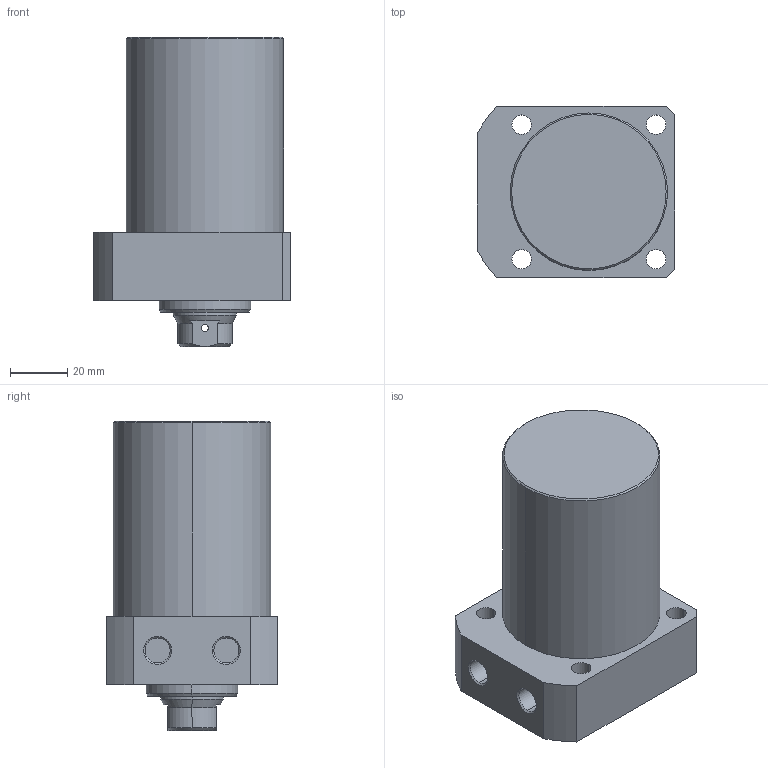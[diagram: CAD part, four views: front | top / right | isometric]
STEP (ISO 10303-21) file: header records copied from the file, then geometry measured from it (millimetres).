
FILE_DESCRIPTION (( 'STEP AP203' ), '1' );
FILE_NAME ('CLLR-055CB-055.STEP', '2019-12-19T07:50:54', ( '' ), ( '' ), 'SwSTEP 2.0', 'SolidWorks 2015', '' );
FILE_SCHEMA (( 'CONFIG_CONTROL_DESIGN' ));
Length unit declared in the file: millimetre
Products named in the file (1): CLLR-055CB-055
Bounding box: 69 x 60 x 108 mm (x, y, z)
Volume: 259153.5 mm3; surface area: 29976.1 mm2
Topology: 1 solids, 1 shells, 69 faces, 163 edges, 102 vertices
Faces by surface type: cylinder 33, plane 19, cone 17
Entity records: 2183 total; most frequent: CARTESIAN_POINT 453, DIRECTION 368, ORIENTED_EDGE 322, EDGE_CURVE 161, AXIS2_PLACEMENT_3D 149, VERTEX_POINT 102, EDGE_LOOP 89, CIRCLE 79
